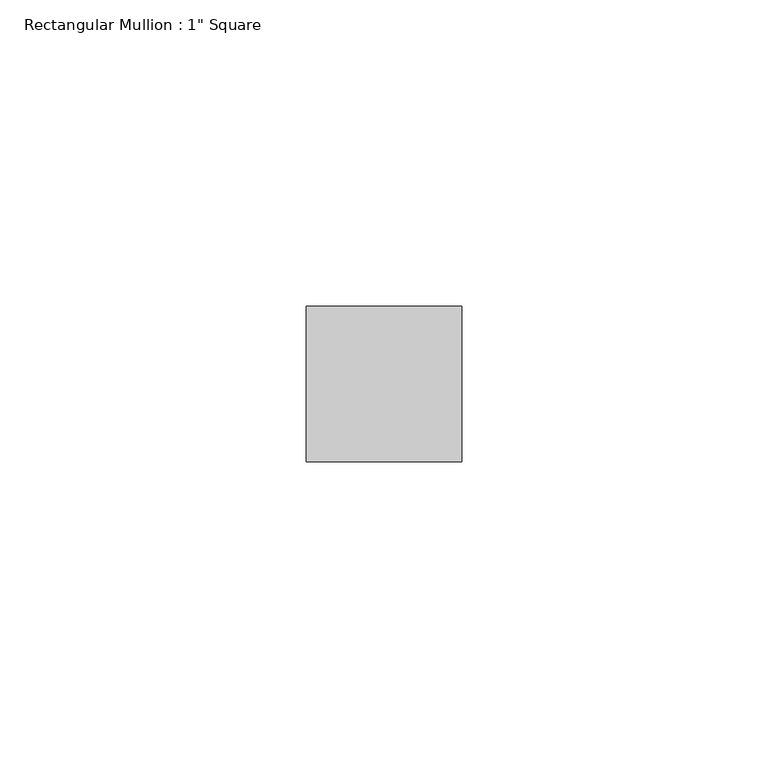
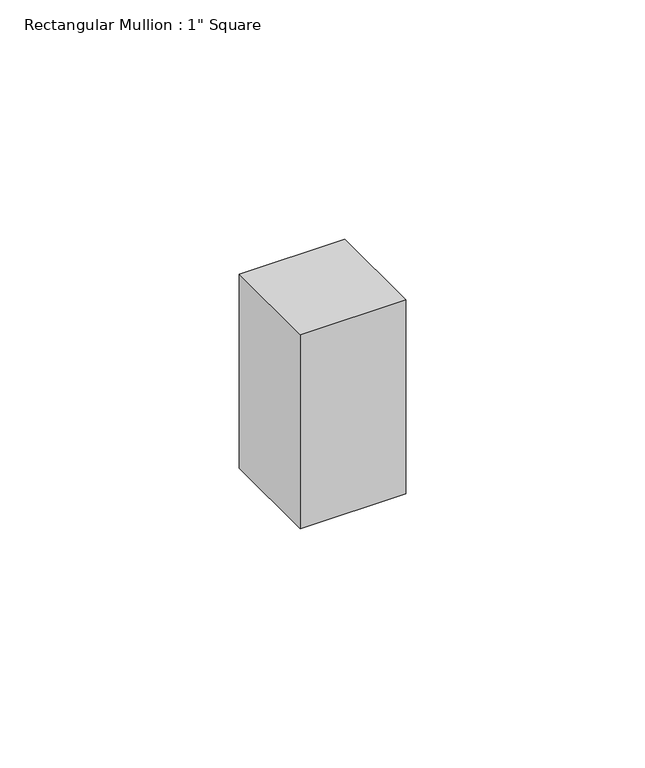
"""IFC4 building model written with IfcOpenShell, lengths in millimetres: member geometry."""

from ifc_helpers import new_model, si_unit, frame, origin, place, context, project, spatial, polyline, outline, extrude, source, transform, mapped, element, save


def member_e80ec650(model_context):
    return source(origin(), model_context, "Body", "SweptSolid", [
        extrude(outline(polyline([(12.7, 12.7), (12.7, -12.7), (-12.7, -12.7), (-12.7, 12.7), (12.7, 12.7)])), frame((0.0, 0.0, -49.4252006), z_axis=(0.0, 0.0, 1.0), x_axis=(1.0, 0.0, 0.0)), (0.0, 0.0, 1.0), 49.4252006),
    ])


if __name__ == "__main__":
    model = new_model("IFC4")
    model_context = context("Model", 3, world=origin())
    ifc_project = project(units=[si_unit("LENGTHUNIT", "METRE", prefix="MILLI")], contexts=[model_context])
    site = spatial("IfcSite", under=ifc_project)
    building = spatial("IfcBuilding", under=site)
    placement = place(None, origin())
    member_shape = member_e80ec650(model_context)
    element("IfcMember", 1, ObjectType="Rectangular Mullion : 1\" Square", at=placement, inside=building, context=model_context, shape_type="MappedRepresentation", body=[
        mapped(member_shape, transform((0.0, 0.0, 0.0), x_axis=(1.0, 0.0, 0.0), y_axis=(0.0, 1.0, 0.0), z_axis=(0.0, 0.0, 1.0))),
    ])
    save(model, "model.ifc")
